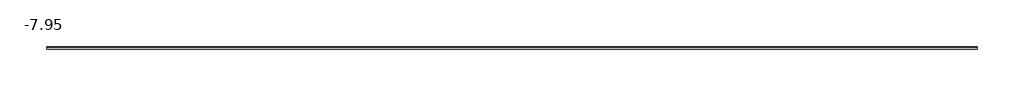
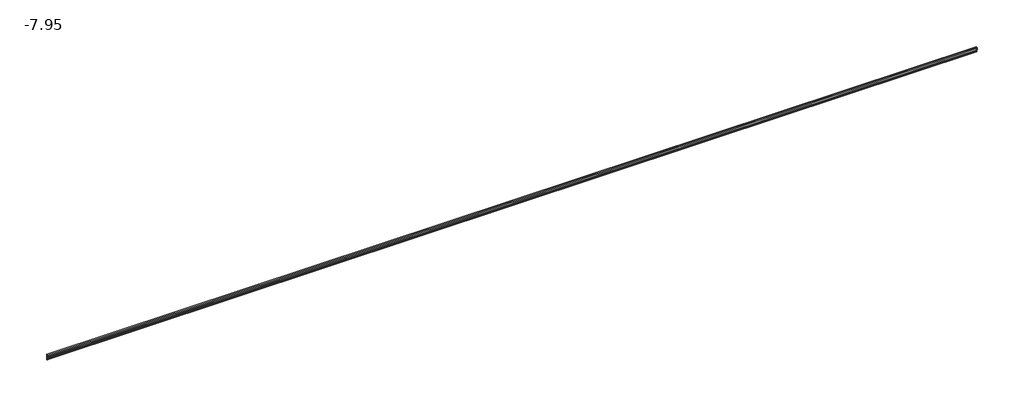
# One storey, incomplete: 1 proxy.
"""IFC4 building model written with IfcOpenShell, lengths in millimetres."""

from ifc_helpers import new_model, si_unit, origin, place, context, project, spatial, transform, mapped, element, save
from components import generic_models_e7f895e9

model = new_model("IFC4")

# Units and contexts
model_context = context("Model", 3, world=origin())
ifc_project = project(units=[si_unit("LENGTHUNIT", "METRE", prefix="MILLI")], contexts=[model_context])

# Site, building, storey
site = spatial("IfcSite", under=ifc_project)
building = spatial("IfcBuilding", under=site)
storey = spatial("IfcBuildingStorey", under=building, Name="-7.95", Elevation=-4580.0)

# Proxy
placement = place(None, origin())
generic_models_shape = generic_models_e7f895e9(model_context)
element("IfcBuildingElementProxy", 1, Name="cornicione : cornicione", ObjectType="cornicione : cornicione", at=placement, inside=storey, context=model_context, shape_type="MappedRepresentation", body=[
    mapped(generic_models_shape, transform((0.0, 0.0, 0.0), x_axis=(1.0, 0.0, 0.0), y_axis=(0.0, 1.0, 0.0), z_axis=(0.0, 0.0, 1.0))),
])

save(model, "model.ifc")
